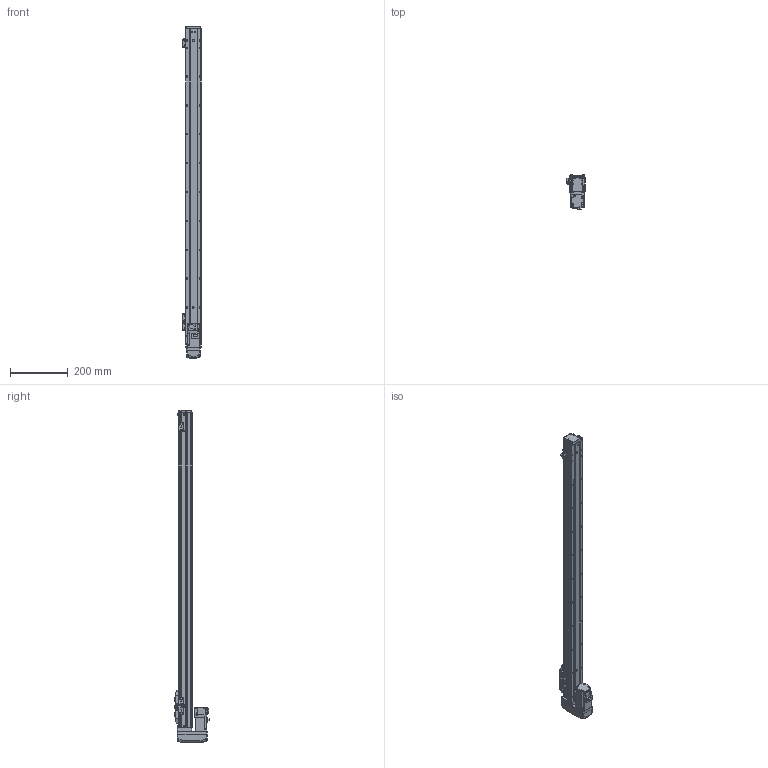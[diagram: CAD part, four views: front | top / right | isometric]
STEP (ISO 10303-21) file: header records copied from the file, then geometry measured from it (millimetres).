
FILE_DESCRIPTION (( 'STEP AP203' ), '1' );
FILE_NAME ('GTH5-950-BM-M10-C4.step', '2023-08-28T00:50:08', ( '微软用户' ), ( '微软中国' ), 'SwSTEP 2.0', 'SolidWorks 2020', '' );
FILE_SCHEMA (( 'CONFIG_CONTROL_DESIGN' ));
Length unit declared in the file: millimetre
Products named in the file (19): GBT 70.3-M3℅6; GBT 70.1-M3℅6; GTH50-027-1_BTHA50-027-2; BTH-M3X5X6; GBT96.1-2002 3×0.8; GTH50-026; GTH50-001_950; GTH50-024; GTH5-950-BM-M10-C4; GBT 70.1-M4×16; GBT 70.1-M2.5×6; GTH50-003; GTH50-028; GTH50-006; GTH50-013; GTH50-022-1; GTH50-004; GTH50-023; HG-KR13
Assembly tree (57 placements, depth 2):
  GTH5-950-BM-M10-C4
    GTH50-006
    GTH50-004
    GBT 70.3-M3℅6  x4
    BTH-M3X5X6  x8
    GTH50-001_950
    GBT 70.1-M4×16  x8
    GTH50-003
    GTH50-013
    GTH50-023  x3
    GBT 70.1-M3℅6  x12
    GBT96.1-2002 3×0.8  x6
    GTH50-024  x3
    GBT 70.1-M2.5×6  x2
    GTH50-028  x2
    GTH50-022-1
    HG-KR13
    GTH50-027-1_BTHA50-027-2
    GTH50-026
Bounding box: 63.8 x 118.9 x 1150 mm (x, y, z)
Volume: 2532277.4 mm3; surface area: 389909.3 mm2
Topology: 59 solids, 59 shells, 2176 faces, 5064 edges, 3108 vertices
Faces by surface type: plane 1142, cylinder 605, cone 219, torus 162, bspline 40, sphere 8
Entity records: 40752 total; most frequent: CARTESIAN_POINT 8043, DIRECTION 6297, ORIENTED_EDGE 6042, EDGE_CURVE 3021, AXIS2_PLACEMENT_3D 2200, VERTEX_POINT 1910, LINE 1897, VECTOR 1897
